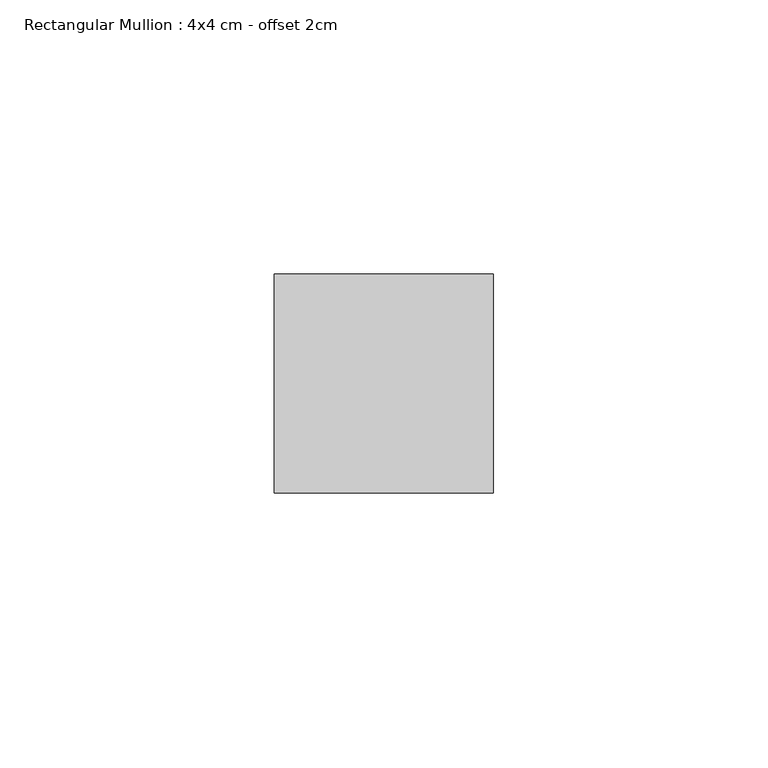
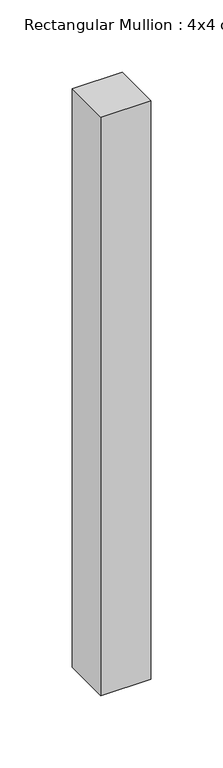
"""IFC4 building model written with IfcOpenShell, lengths in millimetres: member geometry, Rectangular Mullion : 4x4 cm - offset 2cm."""

from ifc_helpers import new_model, si_unit, frame, origin, place, context, project, spatial, polyline, outline, extrude, source, transform, mapped, element, save


def rectangular_mullion_4x4_cm_offset_2cm_97be8866(model_context):
    return source(origin(), model_context, "Body", "SweptSolid", [
        extrude(outline(polyline([(40.0, 0.0), (40.0, -40.0), (0.0, -40.0), (0.0, 0.0), (40.0, 0.0)])), frame((0.0, 0.0, -490.0), z_axis=(0.0, 0.0, 1.0), x_axis=(1.0, 0.0, 0.0)), (0.0, 0.0, 1.0), 490.0),
    ])


if __name__ == "__main__":
    model = new_model("IFC4")
    model_context = context("Model", 3, world=origin())
    ifc_project = project(units=[si_unit("LENGTHUNIT", "METRE", prefix="MILLI")], contexts=[model_context])
    site = spatial("IfcSite", under=ifc_project)
    building = spatial("IfcBuilding", under=site)
    placement = place(None, origin())
    rectangular_mullion_4x4_cm_offset_2cm_shape = rectangular_mullion_4x4_cm_offset_2cm_97be8866(model_context)
    element("IfcMember", 1, ObjectType="Rectangular Mullion : 4x4 cm - offset 2cm", at=placement, inside=building, context=model_context, shape_type="MappedRepresentation", body=[
        mapped(rectangular_mullion_4x4_cm_offset_2cm_shape, transform((0.0, 0.0, 0.0), x_axis=(1.0, 0.0, 0.0), y_axis=(0.0, 1.0, 0.0), z_axis=(0.0, 0.0, 1.0))),
    ])
    save(model, "model.ifc")
